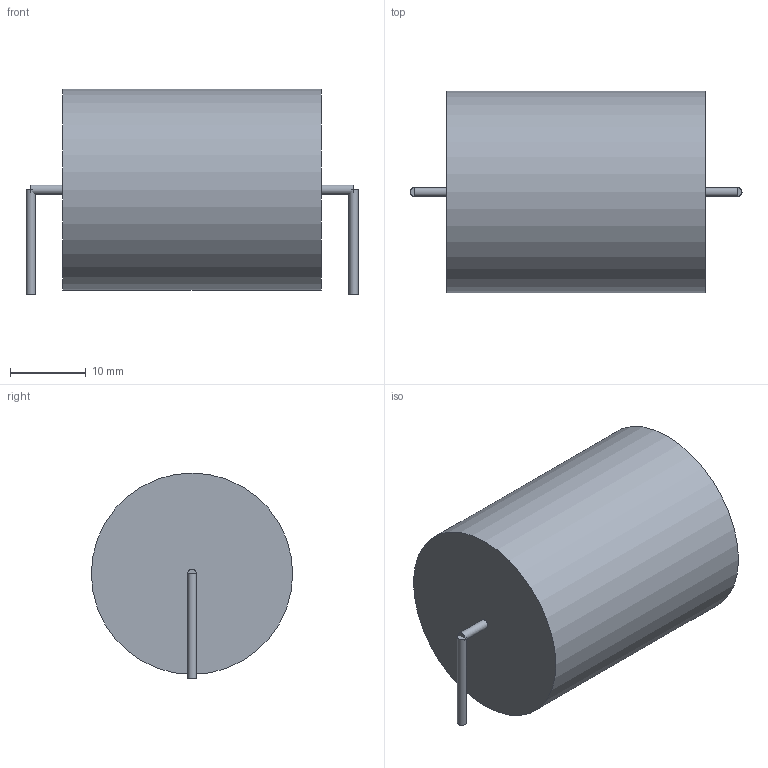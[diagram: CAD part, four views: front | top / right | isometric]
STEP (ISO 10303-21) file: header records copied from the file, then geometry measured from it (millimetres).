
FILE_DESCRIPTION(('Open CASCADE Model'),'2;1');
FILE_NAME('Open CASCADE Shape Model','2026-09-26T00:00:00',('Author'),( 'Open CASCADE'),'Open CASCADE STEP processor 7.9','Open CASCADE 7.9' ,'Unknown');
FILE_SCHEMA(('AUTOMOTIVE_DESIGN { 1 0 10303 214 1 1 1 1 }'));
Length unit declared in the file: millimetre
Products named in the file (6): Open CASCADE STEP translator 7.9 1; Open CASCADE STEP translator 7.9 1.1; Open CASCADE STEP translator 7.9 1.2; Open CASCADE STEP translator 7.9 1.3; Open CASCADE STEP translator 7.9 1.4; Open CASCADE STEP translator 7.9 1.5
Assembly tree (5 placements, depth 2):
  Open CASCADE STEP translator 7.9 1
    Open CASCADE STEP translator 7.9 1.1
    Open CASCADE STEP translator 7.9 1.2
    Open CASCADE STEP translator 7.9 1.3
    Open CASCADE STEP translator 7.9 1.4
    Open CASCADE STEP translator 7.9 1.5
Bounding box: 43.7 x 26.5 x 27.1 mm (x, y, z)
Volume: 18793.5 mm3; surface area: 4079.2 mm2
Topology: 5 solids, 5 shells, 15 faces, 15 edges, 10 vertices
Faces by surface type: plane 10, cylinder 5
Full cylindrical faces by diameter (mm): 1.2 x4, 26.5 x1
Entity records: 566 total; most frequent: DIRECTION 97, CARTESIAN_POINT 76, AXIS2_PLACEMENT_3D 31, ORIENTED_EDGE 30, PCURVE 30, DEFINITIONAL_REPRESENTATION 30, LINE 25, VECTOR 25
